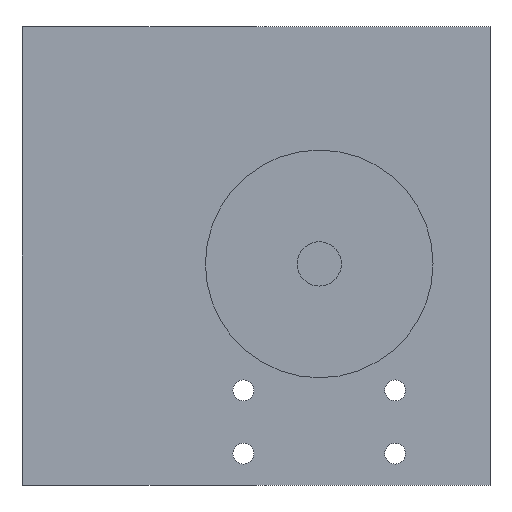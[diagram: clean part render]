
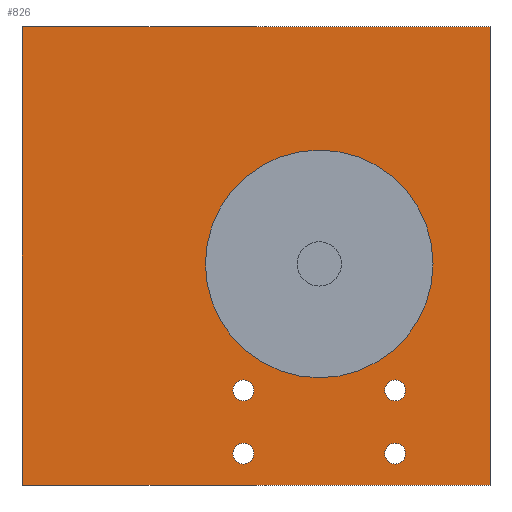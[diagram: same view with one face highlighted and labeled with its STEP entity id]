
A CAD part, front view. The second image highlights one B-rep face of the part: STEP entity #826.
In plain terms, the highlighted planar face has unit normal (0, -1, 0).
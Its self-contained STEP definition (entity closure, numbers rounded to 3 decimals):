
#44 = PLANE('',#45);
#45 = AXIS2_PLACEMENT_3D('',#46,#47,#48);
#46 = CARTESIAN_POINT('',(-47.,19.8,37.5));
#47 = DIRECTION('',(1.,0.,0.));
#48 = DIRECTION('',(0.,0.,-1.));
#100 = PLANE('',#101);
#101 = AXIS2_PLACEMENT_3D('',#102,#103,#104);
#102 = CARTESIAN_POINT('',(27.,19.8,-35.));
#103 = DIRECTION('',(-1.,0.,0.));
#104 = DIRECTION('',(0.,0.,1.));
#165 = VERTEX_POINT('',#166);
#166 = CARTESIAN_POINT('',(-47.,-59.8,37.5));
#180 = PLANE('',#181);
#181 = AXIS2_PLACEMENT_3D('',#182,#183,#184);
#182 = CARTESIAN_POINT('',(27.,19.8,37.5));
#183 = DIRECTION('',(-0.,-0.,-1.));
#184 = DIRECTION('',(-1.,0.,0.));
#192 = EDGE_CURVE('',#193,#165,#195,.T.);
#193 = VERTEX_POINT('',#194);
#194 = CARTESIAN_POINT('',(-47.,-59.8,-35.));
#195 = SURFACE_CURVE('',#196,(#200,#207),.PCURVE_S1.);
#196 = LINE('',#197,#198);
#197 = CARTESIAN_POINT('',(-47.,-59.8,-35.));
#198 = VECTOR('',#199,1.);
#199 = DIRECTION('',(0.,0.,1.));
#200 = PCURVE('',#44,#201);
#201 = DEFINITIONAL_REPRESENTATION('',(#202),#206);
#202 = LINE('',#203,#204);
#203 = CARTESIAN_POINT('',(72.5,-79.6));
#204 = VECTOR('',#205,1.);
#205 = DIRECTION('',(-1.,0.));
#206 = ( GEOMETRIC_REPRESENTATION_CONTEXT(2) 
PARAMETRIC_REPRESENTATION_CONTEXT() REPRESENTATION_CONTEXT('2D SPACE',''
  ) );
#207 = PCURVE('',#208,#213);
#208 = PLANE('',#209);
#209 = AXIS2_PLACEMENT_3D('',#210,#211,#212);
#210 = CARTESIAN_POINT('',(-10.,-59.8,1.25));
#211 = DIRECTION('',(-0.,-1.,-0.));
#212 = DIRECTION('',(0.,0.,-1.));
#213 = DEFINITIONAL_REPRESENTATION('',(#214),#218);
#214 = LINE('',#215,#216);
#215 = CARTESIAN_POINT('',(36.25,-37.));
#216 = VECTOR('',#217,1.);
#217 = DIRECTION('',(-1.,0.));
#218 = ( GEOMETRIC_REPRESENTATION_CONTEXT(2) 
PARAMETRIC_REPRESENTATION_CONTEXT() REPRESENTATION_CONTEXT('2D SPACE',''
  ) );
#236 = PLANE('',#237);
#237 = AXIS2_PLACEMENT_3D('',#238,#239,#240);
#238 = CARTESIAN_POINT('',(-47.,-56.3,-35.));
#239 = DIRECTION('',(-0.,0.,1.));
#240 = DIRECTION('',(1.,0.,0.));
#423 = VERTEX_POINT('',#424);
#424 = CARTESIAN_POINT('',(27.,-59.8,-35.));
#445 = EDGE_CURVE('',#446,#423,#448,.T.);
#446 = VERTEX_POINT('',#447);
#447 = CARTESIAN_POINT('',(27.,-59.8,37.5));
#448 = SURFACE_CURVE('',#449,(#453,#460),.PCURVE_S1.);
#449 = LINE('',#450,#451);
#450 = CARTESIAN_POINT('',(27.,-59.8,37.5));
#451 = VECTOR('',#452,1.);
#452 = DIRECTION('',(0.,0.,-1.));
#453 = PCURVE('',#100,#454);
#454 = DEFINITIONAL_REPRESENTATION('',(#455),#459);
#455 = LINE('',#456,#457);
#456 = CARTESIAN_POINT('',(72.5,-79.6));
#457 = VECTOR('',#458,1.);
#458 = DIRECTION('',(-1.,0.));
#459 = ( GEOMETRIC_REPRESENTATION_CONTEXT(2) 
PARAMETRIC_REPRESENTATION_CONTEXT() REPRESENTATION_CONTEXT('2D SPACE',''
  ) );
#460 = PCURVE('',#208,#461);
#461 = DEFINITIONAL_REPRESENTATION('',(#462),#466);
#462 = LINE('',#463,#464);
#463 = CARTESIAN_POINT('',(-36.25,37.));
#464 = VECTOR('',#465,1.);
#465 = DIRECTION('',(1.,0.));
#466 = ( GEOMETRIC_REPRESENTATION_CONTEXT(2) 
PARAMETRIC_REPRESENTATION_CONTEXT() REPRESENTATION_CONTEXT('2D SPACE',''
  ) );
#804 = EDGE_CURVE('',#446,#165,#805,.T.);
#805 = SURFACE_CURVE('',#806,(#810,#817),.PCURVE_S1.);
#806 = LINE('',#807,#808);
#807 = CARTESIAN_POINT('',(27.,-59.8,37.5));
#808 = VECTOR('',#809,1.);
#809 = DIRECTION('',(-1.,0.,0.));
#810 = PCURVE('',#180,#811);
#811 = DEFINITIONAL_REPRESENTATION('',(#812),#816);
#812 = LINE('',#813,#814);
#813 = CARTESIAN_POINT('',(0.,-79.6));
#814 = VECTOR('',#815,1.);
#815 = DIRECTION('',(1.,0.));
#816 = ( GEOMETRIC_REPRESENTATION_CONTEXT(2) 
PARAMETRIC_REPRESENTATION_CONTEXT() REPRESENTATION_CONTEXT('2D SPACE',''
  ) );
#817 = PCURVE('',#208,#818);
#818 = DEFINITIONAL_REPRESENTATION('',(#819),#823);
#819 = LINE('',#820,#821);
#820 = CARTESIAN_POINT('',(-36.25,37.));
#821 = VECTOR('',#822,1.);
#822 = DIRECTION('',(0.,-1.));
#823 = ( GEOMETRIC_REPRESENTATION_CONTEXT(2) 
PARAMETRIC_REPRESENTATION_CONTEXT() REPRESENTATION_CONTEXT('2D SPACE',''
  ) );
#826 = ADVANCED_FACE('',(#827,#853,#884,#915,#946,#977),#208,.T.);
#827 = FACE_BOUND('',#828,.T.);
#828 = EDGE_LOOP('',(#829,#830,#851,#852));
#829 = ORIENTED_EDGE('',*,*,#192,.F.);
#830 = ORIENTED_EDGE('',*,*,#831,.T.);
#831 = EDGE_CURVE('',#193,#423,#832,.T.);
#832 = SURFACE_CURVE('',#833,(#837,#844),.PCURVE_S1.);
#833 = LINE('',#834,#835);
#834 = CARTESIAN_POINT('',(-47.,-59.8,-35.));
#835 = VECTOR('',#836,1.);
#836 = DIRECTION('',(1.,0.,0.));
#837 = PCURVE('',#208,#838);
#838 = DEFINITIONAL_REPRESENTATION('',(#839),#843);
#839 = LINE('',#840,#841);
#840 = CARTESIAN_POINT('',(36.25,-37.));
#841 = VECTOR('',#842,1.);
#842 = DIRECTION('',(0.,1.));
#843 = ( GEOMETRIC_REPRESENTATION_CONTEXT(2) 
PARAMETRIC_REPRESENTATION_CONTEXT() REPRESENTATION_CONTEXT('2D SPACE',''
  ) );
#844 = PCURVE('',#236,#845);
#845 = DEFINITIONAL_REPRESENTATION('',(#846),#850);
#846 = LINE('',#847,#848);
#847 = CARTESIAN_POINT('',(0.,-3.5));
#848 = VECTOR('',#849,1.);
#849 = DIRECTION('',(1.,0.));
#850 = ( GEOMETRIC_REPRESENTATION_CONTEXT(2) 
PARAMETRIC_REPRESENTATION_CONTEXT() REPRESENTATION_CONTEXT('2D SPACE',''
  ) );
#851 = ORIENTED_EDGE('',*,*,#445,.F.);
#852 = ORIENTED_EDGE('',*,*,#804,.T.);
#853 = FACE_BOUND('',#854,.T.);
#854 = EDGE_LOOP('',(#855));
#855 = ORIENTED_EDGE('',*,*,#856,.F.);
#856 = EDGE_CURVE('',#857,#857,#859,.T.);
#857 = VERTEX_POINT('',#858);
#858 = CARTESIAN_POINT('',(-10.35,-59.8,-20.));
#859 = SURFACE_CURVE('',#860,(#865,#872),.PCURVE_S1.);
#860 = CIRCLE('',#861,1.65);
#861 = AXIS2_PLACEMENT_3D('',#862,#863,#864);
#862 = CARTESIAN_POINT('',(-12.,-59.8,-20.));
#863 = DIRECTION('',(0.,-1.,-0.));
#864 = DIRECTION('',(1.,0.,0.));
#865 = PCURVE('',#208,#866);
#866 = DEFINITIONAL_REPRESENTATION('',(#867),#871);
#867 = CIRCLE('',#868,1.65);
#868 = AXIS2_PLACEMENT_2D('',#869,#870);
#869 = CARTESIAN_POINT('',(21.25,-2.));
#870 = DIRECTION('',(0.,1.));
#871 = ( GEOMETRIC_REPRESENTATION_CONTEXT(2) 
PARAMETRIC_REPRESENTATION_CONTEXT() REPRESENTATION_CONTEXT('2D SPACE',''
  ) );
#872 = PCURVE('',#873,#878);
#873 = CYLINDRICAL_SURFACE('',#874,1.65);
#874 = AXIS2_PLACEMENT_3D('',#875,#876,#877);
#875 = CARTESIAN_POINT('',(-12.,-64.,-20.));
#876 = DIRECTION('',(0.,-1.,-0.));
#877 = DIRECTION('',(1.,0.,0.));
#878 = DEFINITIONAL_REPRESENTATION('',(#879),#883);
#879 = LINE('',#880,#881);
#880 = CARTESIAN_POINT('',(-6.283,-4.2));
#881 = VECTOR('',#882,1.);
#882 = DIRECTION('',(1.,-0.));
#883 = ( GEOMETRIC_REPRESENTATION_CONTEXT(2) 
PARAMETRIC_REPRESENTATION_CONTEXT() REPRESENTATION_CONTEXT('2D SPACE',''
  ) );
#884 = FACE_BOUND('',#885,.T.);
#885 = EDGE_LOOP('',(#886));
#886 = ORIENTED_EDGE('',*,*,#887,.F.);
#887 = EDGE_CURVE('',#888,#888,#890,.T.);
#888 = VERTEX_POINT('',#889);
#889 = CARTESIAN_POINT('',(-10.35,-59.8,-30.));
#890 = SURFACE_CURVE('',#891,(#896,#903),.PCURVE_S1.);
#891 = CIRCLE('',#892,1.65);
#892 = AXIS2_PLACEMENT_3D('',#893,#894,#895);
#893 = CARTESIAN_POINT('',(-12.,-59.8,-30.));
#894 = DIRECTION('',(0.,-1.,-0.));
#895 = DIRECTION('',(1.,0.,0.));
#896 = PCURVE('',#208,#897);
#897 = DEFINITIONAL_REPRESENTATION('',(#898),#902);
#898 = CIRCLE('',#899,1.65);
#899 = AXIS2_PLACEMENT_2D('',#900,#901);
#900 = CARTESIAN_POINT('',(31.25,-2.));
#901 = DIRECTION('',(0.,1.));
#902 = ( GEOMETRIC_REPRESENTATION_CONTEXT(2) 
PARAMETRIC_REPRESENTATION_CONTEXT() REPRESENTATION_CONTEXT('2D SPACE',''
  ) );
#903 = PCURVE('',#904,#909);
#904 = CYLINDRICAL_SURFACE('',#905,1.65);
#905 = AXIS2_PLACEMENT_3D('',#906,#907,#908);
#906 = CARTESIAN_POINT('',(-12.,-64.,-30.));
#907 = DIRECTION('',(0.,-1.,-0.));
#908 = DIRECTION('',(1.,0.,0.));
#909 = DEFINITIONAL_REPRESENTATION('',(#910),#914);
#910 = LINE('',#911,#912);
#911 = CARTESIAN_POINT('',(-6.283,-4.2));
#912 = VECTOR('',#913,1.);
#913 = DIRECTION('',(1.,-0.));
#914 = ( GEOMETRIC_REPRESENTATION_CONTEXT(2) 
PARAMETRIC_REPRESENTATION_CONTEXT() REPRESENTATION_CONTEXT('2D SPACE',''
  ) );
#915 = FACE_BOUND('',#916,.T.);
#916 = EDGE_LOOP('',(#917));
#917 = ORIENTED_EDGE('',*,*,#918,.F.);
#918 = EDGE_CURVE('',#919,#919,#921,.T.);
#919 = VERTEX_POINT('',#920);
#920 = CARTESIAN_POINT('',(18.,-59.8,0.));
#921 = SURFACE_CURVE('',#922,(#927,#934),.PCURVE_S1.);
#922 = CIRCLE('',#923,18.);
#923 = AXIS2_PLACEMENT_3D('',#924,#925,#926);
#924 = CARTESIAN_POINT('',(0.,-59.8,0.));
#925 = DIRECTION('',(0.,-1.,-0.));
#926 = DIRECTION('',(1.,0.,0.));
#927 = PCURVE('',#208,#928);
#928 = DEFINITIONAL_REPRESENTATION('',(#929),#933);
#929 = CIRCLE('',#930,18.);
#930 = AXIS2_PLACEMENT_2D('',#931,#932);
#931 = CARTESIAN_POINT('',(1.25,10.));
#932 = DIRECTION('',(0.,1.));
#933 = ( GEOMETRIC_REPRESENTATION_CONTEXT(2) 
PARAMETRIC_REPRESENTATION_CONTEXT() REPRESENTATION_CONTEXT('2D SPACE',''
  ) );
#934 = PCURVE('',#935,#940);
#935 = CYLINDRICAL_SURFACE('',#936,18.);
#936 = AXIS2_PLACEMENT_3D('',#937,#938,#939);
#937 = CARTESIAN_POINT('',(0.,-66.,0.));
#938 = DIRECTION('',(0.,-1.,-0.));
#939 = DIRECTION('',(1.,0.,0.));
#940 = DEFINITIONAL_REPRESENTATION('',(#941),#945);
#941 = LINE('',#942,#943);
#942 = CARTESIAN_POINT('',(-6.283,-6.2));
#943 = VECTOR('',#944,1.);
#944 = DIRECTION('',(1.,-0.));
#945 = ( GEOMETRIC_REPRESENTATION_CONTEXT(2) 
PARAMETRIC_REPRESENTATION_CONTEXT() REPRESENTATION_CONTEXT('2D SPACE',''
  ) );
#946 = FACE_BOUND('',#947,.T.);
#947 = EDGE_LOOP('',(#948));
#948 = ORIENTED_EDGE('',*,*,#949,.F.);
#949 = EDGE_CURVE('',#950,#950,#952,.T.);
#950 = VERTEX_POINT('',#951);
#951 = CARTESIAN_POINT('',(13.65,-59.8,-20.));
#952 = SURFACE_CURVE('',#953,(#958,#965),.PCURVE_S1.);
#953 = CIRCLE('',#954,1.65);
#954 = AXIS2_PLACEMENT_3D('',#955,#956,#957);
#955 = CARTESIAN_POINT('',(12.,-59.8,-20.));
#956 = DIRECTION('',(0.,-1.,-0.));
#957 = DIRECTION('',(1.,0.,0.));
#958 = PCURVE('',#208,#959);
#959 = DEFINITIONAL_REPRESENTATION('',(#960),#964);
#960 = CIRCLE('',#961,1.65);
#961 = AXIS2_PLACEMENT_2D('',#962,#963);
#962 = CARTESIAN_POINT('',(21.25,22.));
#963 = DIRECTION('',(0.,1.));
#964 = ( GEOMETRIC_REPRESENTATION_CONTEXT(2) 
PARAMETRIC_REPRESENTATION_CONTEXT() REPRESENTATION_CONTEXT('2D SPACE',''
  ) );
#965 = PCURVE('',#966,#971);
#966 = CYLINDRICAL_SURFACE('',#967,1.65);
#967 = AXIS2_PLACEMENT_3D('',#968,#969,#970);
#968 = CARTESIAN_POINT('',(12.,-64.,-20.));
#969 = DIRECTION('',(0.,-1.,-0.));
#970 = DIRECTION('',(1.,0.,0.));
#971 = DEFINITIONAL_REPRESENTATION('',(#972),#976);
#972 = LINE('',#973,#974);
#973 = CARTESIAN_POINT('',(-6.283,-4.2));
#974 = VECTOR('',#975,1.);
#975 = DIRECTION('',(1.,-0.));
#976 = ( GEOMETRIC_REPRESENTATION_CONTEXT(2) 
PARAMETRIC_REPRESENTATION_CONTEXT() REPRESENTATION_CONTEXT('2D SPACE',''
  ) );
#977 = FACE_BOUND('',#978,.T.);
#978 = EDGE_LOOP('',(#979));
#979 = ORIENTED_EDGE('',*,*,#980,.F.);
#980 = EDGE_CURVE('',#981,#981,#983,.T.);
#981 = VERTEX_POINT('',#982);
#982 = CARTESIAN_POINT('',(13.65,-59.8,-30.));
#983 = SURFACE_CURVE('',#984,(#989,#996),.PCURVE_S1.);
#984 = CIRCLE('',#985,1.65);
#985 = AXIS2_PLACEMENT_3D('',#986,#987,#988);
#986 = CARTESIAN_POINT('',(12.,-59.8,-30.));
#987 = DIRECTION('',(0.,-1.,-0.));
#988 = DIRECTION('',(1.,0.,0.));
#989 = PCURVE('',#208,#990);
#990 = DEFINITIONAL_REPRESENTATION('',(#991),#995);
#991 = CIRCLE('',#992,1.65);
#992 = AXIS2_PLACEMENT_2D('',#993,#994);
#993 = CARTESIAN_POINT('',(31.25,22.));
#994 = DIRECTION('',(0.,1.));
#995 = ( GEOMETRIC_REPRESENTATION_CONTEXT(2) 
PARAMETRIC_REPRESENTATION_CONTEXT() REPRESENTATION_CONTEXT('2D SPACE',''
  ) );
#996 = PCURVE('',#997,#1002);
#997 = CYLINDRICAL_SURFACE('',#998,1.65);
#998 = AXIS2_PLACEMENT_3D('',#999,#1000,#1001);
#999 = CARTESIAN_POINT('',(12.,-64.,-30.));
#1000 = DIRECTION('',(0.,-1.,-0.));
#1001 = DIRECTION('',(1.,0.,0.));
#1002 = DEFINITIONAL_REPRESENTATION('',(#1003),#1007);
#1003 = LINE('',#1004,#1005);
#1004 = CARTESIAN_POINT('',(-6.283,-4.2));
#1005 = VECTOR('',#1006,1.);
#1006 = DIRECTION('',(1.,-0.));
#1007 = ( GEOMETRIC_REPRESENTATION_CONTEXT(2) 
PARAMETRIC_REPRESENTATION_CONTEXT() REPRESENTATION_CONTEXT('2D SPACE',''
  ) );
